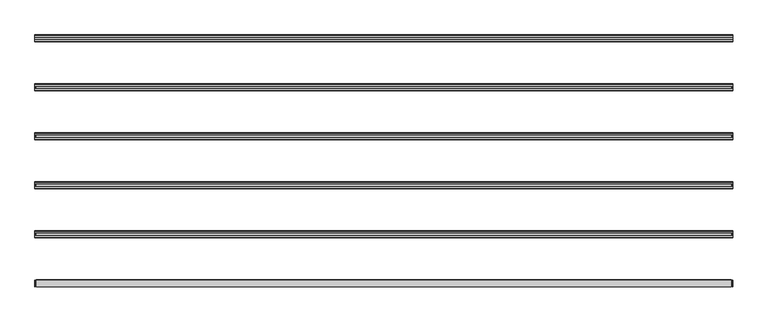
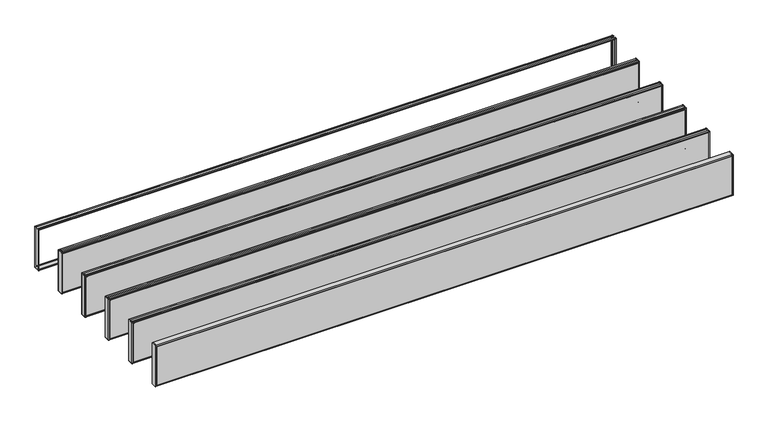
"""IFC4 building model written with IfcOpenShell, lengths in millimetres: proxy geometry, durlum_POLYLAM_KS : durlum_POLYLAM-KS/-S 40 RV-L6."""

from ifc_helpers import new_model, si_unit, frame, origin, place, context, project, spatial, polyline, circle_curve, outline, extrude, source, transform, mapped, element, save
from ifc_brep_helpers import plane_surface, cylinder_surface, advanced_brep


def generic_models_d5dff9a6(model_context):
    return source(origin(), model_context, "Body", "SolidModel", [
        advanced_brep(
        [(1995.0, 298.0, 1990.9), (1995.0, 288.0, 1990.9), (1995.0, 288.0, 1990.0604454), (1995.0, 299.0, 1990.0604454), (1995.0, 299.0, 1691.9), (1995.0, 261.0, 1691.9), (1995.0, 261.0, 1989.8155735), (1995.0, 272.0, 1989.8155735), (1995.0, 272.0, 1990.9), (1995.0, 262.0, 1990.9), (1995.0, 260.0, 1988.9), (1995.0, 260.0, 1692.9), (1995.0, 262.0, 1690.9), (1995.0, 298.0, 1690.9), (1995.0, 300.0, 1692.9), (1995.0, 300.0, 1988.9), (-1995.0, 298.0, 1990.9), (-1995.0, 300.0, 1988.9), (-1995.0, 300.0, 1692.9), (-1995.0, 298.0, 1690.9), (-1995.0, 262.0, 1690.9), (-1995.0, 260.0, 1692.9), (-1995.0, 260.0, 1988.9), (-1995.0, 262.0, 1990.9), (-1995.0, 272.0, 1990.9), (-1995.0, 272.0, 1989.8155735), (-1995.0, 261.0, 1989.8155735), (-1995.0, 261.0, 1691.9), (-1995.0, 299.0, 1691.9), (-1995.0, 299.0, 1990.0604454), (-1995.0, 288.0, 1990.0604454), (-1995.0, 288.0, 1990.9), (-1986.5, 299.0, 1982.4), (1986.5, 299.0, 1982.4), (1986.5, 299.0, 1699.4), (-1986.5, 299.0, 1699.4), (1986.5, 261.0, 1982.4), (-1986.5, 261.0, 1982.4), (-1986.5, 261.0, 1699.4), (1986.5, 261.0, 1699.4), (-1986.5, 260.0, 1982.4), (1986.5, 260.0, 1982.4), (1986.5, 260.0, 1699.4), (-1986.5, 260.0, 1699.4), (1986.5, 300.0, 1982.4), (-1986.5, 300.0, 1982.4), (-1986.5, 300.0, 1699.4), (1986.5, 300.0, 1699.4)],
        [
            (0, 1),
            (1, 2),
            (2, 3),
            (3, 4),
            (4, 5),
            (5, 6),
            (6, 7),
            (7, 8),
            (8, 9),
            (9, 10, circle_curve(frame((1995.0, 262.0, 1988.9), z_axis=(1.0, 0.0, 0.0), x_axis=(0.0, 1.0, 0.0)), 2.0)),
            (10, 11),
            (11, 12, circle_curve(frame((1995.0, 262.0, 1692.9), z_axis=(1.0, 0.0, 0.0), x_axis=(0.0, 1.0, 0.0)), 2.0)),
            (12, 13),
            (13, 14, circle_curve(frame((1995.0, 298.0, 1692.9), z_axis=(1.0, 0.0, 0.0), x_axis=(0.0, 1.0, 0.0)), 2.0)),
            (14, 15),
            (15, 0, circle_curve(frame((1995.0, 298.0, 1988.9), z_axis=(1.0, 0.0, 0.0), x_axis=(0.0, 1.0, 0.0)), 2.0)),
            (16, 17, circle_curve(frame((-1995.0, 298.0, 1988.9), z_axis=(-1.0, 0.0, 0.0), x_axis=(0.0, 1.0, 0.0)), 2.0)),
            (17, 18),
            (18, 19, circle_curve(frame((-1995.0, 298.0, 1692.9), z_axis=(-1.0, 0.0, 0.0), x_axis=(0.0, 1.0, 0.0)), 2.0)),
            (19, 20),
            (20, 21, circle_curve(frame((-1995.0, 262.0, 1692.9), z_axis=(-1.0, 0.0, 0.0), x_axis=(0.0, 1.0, 0.0)), 2.0)),
            (21, 22),
            (22, 23, circle_curve(frame((-1995.0, 262.0, 1988.9), z_axis=(-1.0, 0.0, 0.0), x_axis=(0.0, 1.0, 0.0)), 2.0)),
            (23, 24),
            (24, 25),
            (25, 26),
            (26, 27),
            (27, 28),
            (28, 29),
            (29, 30),
            (30, 31),
            (31, 16),
            (0, 16),
            (31, 1),
            (30, 2),
            (29, 3),
            (28, 4),
            (32, 33),
            (33, 34),
            (34, 35),
            (35, 32),
            (27, 5),
            (26, 6),
            (36, 37),
            (37, 38),
            (38, 39),
            (39, 36),
            (25, 7),
            (24, 8),
            (23, 9),
            (10, 22),
            (21, 11),
            (40, 41),
            (41, 42),
            (42, 43),
            (43, 40),
            (12, 20),
            (19, 13),
            (14, 18),
            (17, 15),
            (44, 45),
            (45, 46),
            (46, 47),
            (47, 44),
            (44, 33),
            (32, 45),
            (36, 41),
            (40, 37),
            (35, 46),
            (43, 38),
            (34, 47),
            (42, 39),
        ],
        [
            plane_surface(frame((1995.0, 288.0, 1990.9), z_axis=(1.0, 0.0, 0.0), x_axis=(0.0, -1.0, 0.0))),
            plane_surface(frame((-1995.0, 288.0, 1990.9), z_axis=(-1.0, 0.0, 0.0), x_axis=(0.0, 1.0, 0.0))),
            plane_surface(frame((1995.0, 298.0, 1990.9), z_axis=(0.0, 0.0, 1.0), x_axis=(-1.0, 0.0, 0.0))),
            plane_surface(frame((1995.0, 288.0, 1990.9), z_axis=(0.0, -1.0, 0.0), x_axis=(-1.0, 0.0, 0.0))),
            plane_surface(frame((1995.0, 288.0, 1990.0604454), z_axis=(0.0, 0.0, -1.0), x_axis=(-1.0, 0.0, 0.0))),
            plane_surface(frame((1995.0, 299.0, 1990.0604454), z_axis=(0.0, -1.0, 0.0), x_axis=(-1.0, 0.0, 0.0))),
            plane_surface(frame((1995.0, 299.0, 1691.9), z_axis=(0.0, 0.0, 1.0), x_axis=(-1.0, 0.0, 0.0))),
            plane_surface(frame((1995.0, 261.0, 1691.9), z_axis=(0.0, 1.0, 0.0), x_axis=(-1.0, 0.0, 0.0))),
            plane_surface(frame((1995.0, 261.0, 1989.8155735), z_axis=(0.0, 0.0, -1.0), x_axis=(-1.0, 0.0, 0.0))),
            plane_surface(frame((1995.0, 272.0, 1989.8155735), z_axis=(0.0, 1.0, 0.0), x_axis=(-1.0, 0.0, 0.0))),
            plane_surface(frame((1995.0, 272.0, 1990.9), z_axis=(0.0, 0.0, 1.0), x_axis=(-1.0, 0.0, 0.0))),
            plane_surface(frame((1995.0, 260.0, 1988.9), z_axis=(0.0, -1.0, 0.0), x_axis=(-1.0, 0.0, 0.0))),
            plane_surface(frame((1995.0, 262.0, 1690.9), z_axis=(0.0, 0.0, -1.0), x_axis=(-1.0, 0.0, 0.0))),
            plane_surface(frame((1995.0, 300.0, 1692.9), z_axis=(0.0, 1.0, 0.0), x_axis=(-1.0, 0.0, 0.0))),
            cylinder_surface(frame((-1995.0, 262.0, 1988.9), z_axis=(1.0, 0.0, 0.0), x_axis=(0.0, 1.0, 0.0)), 2.0),
            cylinder_surface(frame((-1995.0, 262.0, 1692.9), z_axis=(1.0, 0.0, 0.0), x_axis=(0.0, 1.0, 0.0)), 2.0),
            cylinder_surface(frame((-1995.0, 298.0, 1692.9), z_axis=(1.0, 0.0, 0.0), x_axis=(0.0, 1.0, 0.0)), 2.0),
            cylinder_surface(frame((-1995.0, 298.0, 1988.9), z_axis=(1.0, 0.0, 0.0), x_axis=(0.0, 1.0, 0.0)), 2.0),
            plane_surface(frame((1986.5, 260.0, 1982.4), z_axis=(0.0, 0.0, -1.0), x_axis=(0.0, 1.0, 0.0))),
            plane_surface(frame((-1986.5, 260.0, 1982.4), z_axis=(1.0, 0.0, 0.0), x_axis=(0.0, 1.0, 0.0))),
            plane_surface(frame((-1986.5, 260.0, 1699.4), z_axis=(0.0, 0.0, 1.0), x_axis=(0.0, 1.0, 0.0))),
            plane_surface(frame((1986.5, 260.0, 1699.4), z_axis=(-1.0, 0.0, 0.0), x_axis=(0.0, 1.0, 0.0))),
        ],
        [
            (0, [[1, 2, 3, 4, 5, 6, 7, 8, 9, 10, 11, 12, 13, 14, 15, 16]]),
            (1, [[17, 18, 19, 20, 21, 22, 23, 24, 25, 26, 27, 28, 29, 30, 31, 32]]),
            (2, [[-1, 33, -32, 34]]),
            (3, [[-2, -34, -31, 35]]),
            (4, [[-3, -35, -30, 36]]),
            (5, [[-4, -36, -29, 37], [38, 39, 40, 41]]),
            (6, [[-5, -37, -28, 42]]),
            (7, [[-6, -42, -27, 43], [44, 45, 46, 47]]),
            (8, [[-7, -43, -26, 48]]),
            (9, [[-8, -48, -25, 49]]),
            (10, [[-9, -49, -24, 50]]),
            (11, [[-11, 51, -22, 52], [53, 54, 55, 56]]),
            (12, [[-13, 57, -20, 58]]),
            (13, [[-15, 59, -18, 60], [61, 62, 63, 64]]),
            (14, [[-10, -50, -23, -51]]),
            (15, [[-12, -52, -21, -57]]),
            (16, [[-14, -58, -19, -59]]),
            (17, [[-16, -60, -17, -33]]),
            (18, [[65, -38, 66, -61]]),
            (18, [[67, -53, 68, -44]]),
            (19, [[-66, -41, 69, -62]]),
            (19, [[-68, -56, 70, -45]]),
            (20, [[-69, -40, 71, -63]]),
            (20, [[-70, -55, 72, -46]]),
            (21, [[-65, -64, -71, -39]]),
            (21, [[-67, -47, -72, -54]]),
        ],
    ),
        extrude(outline(polyline([(1993.0, 19.0), (1995.0, 19.0), (1995.0, -19.0), (1993.0, -19.0), (1993.0, 19.0)])), frame((0.0, 0.0, 1691.9), z_axis=(0.0, 0.0, 1.0), x_axis=(1.0, 0.0, 0.0)), (0.0, 0.0, 1.0), 298.1604454),
        extrude(outline(polyline([(-1995.0, 19.0), (-1993.0, 19.0), (-1993.0, -19.0), (-1995.0, -19.0), (-1995.0, 19.0)])), frame((0.0, 0.0, 1691.9), z_axis=(0.0, 0.0, 1.0), x_axis=(1.0, 0.0, 0.0)), (0.0, 0.0, 1.0), 298.1604454),
        extrude(outline(polyline([(1986.5, 19.0), (1986.5, -19.0), (-1986.5, -19.0), (-1986.5, 19.0), (1986.5, 19.0)])), frame((0.0, 0.0, 1691.9), z_axis=(0.0, 0.0, 1.0), x_axis=(1.0, 0.0, 0.0)), (0.0, 0.0, 1.0), 298.0),
        extrude(outline(polyline([(1986.5, 19.0), (-1986.5, 19.0), (-1986.5, 20.0), (1986.5, 20.0), (1986.5, 19.0)])), frame((0.0, 0.0, 1699.4), z_axis=(0.0, 0.0, 1.0), x_axis=(1.0, 0.0, 0.0)), (0.0, 0.0, 1.0), 283.0),
        extrude(outline(polyline([(1986.5, -20.0), (-1986.5, -20.0), (-1986.5, -19.0), (1986.5, -19.0), (1986.5, -20.0)])), frame((0.0, 0.0, 1699.4), z_axis=(0.0, 0.0, 1.0), x_axis=(1.0, 0.0, 0.0)), (0.0, 0.0, 1.0), 283.0),
        advanced_brep(
        [(1995.0, 18.0, 1990.9), (1995.0, 8.0, 1990.9), (1995.0, 8.0, 1990.0604454), (1995.0, 19.0, 1990.0604454), (1995.0, 19.0, 1691.9), (1995.0, -19.0, 1691.9), (1995.0, -19.0, 1989.8155735), (1995.0, -8.0, 1989.8155735), (1995.0, -8.0, 1990.9), (1995.0, -18.0, 1990.9), (1995.0, -20.0, 1988.9), (1995.0, -20.0, 1692.9), (1995.0, -18.0, 1690.9), (1995.0, 18.0, 1690.9), (1995.0, 20.0, 1692.9), (1995.0, 20.0, 1988.9), (-1995.0, 18.0, 1990.9), (-1995.0, 20.0, 1988.9), (-1995.0, 20.0, 1692.9), (-1995.0, 18.0, 1690.9), (-1995.0, -18.0, 1690.9), (-1995.0, -20.0, 1692.9), (-1995.0, -20.0, 1988.9), (-1995.0, -18.0, 1990.9), (-1995.0, -8.0, 1990.9), (-1995.0, -8.0, 1989.8155735), (-1995.0, -19.0, 1989.8155735), (-1995.0, -19.0, 1691.9), (-1995.0, 19.0, 1691.9), (-1995.0, 19.0, 1990.0604454), (-1995.0, 8.0, 1990.0604454), (-1995.0, 8.0, 1990.9), (-1986.5, 19.0, 1982.4), (1986.5, 19.0, 1982.4), (1986.5, 19.0, 1699.4), (-1986.5, 19.0, 1699.4), (1986.5, -19.0, 1982.4), (-1986.5, -19.0, 1982.4), (-1986.5, -19.0, 1699.4), (1986.5, -19.0, 1699.4), (-1986.5, -20.0, 1982.4), (1986.5, -20.0, 1982.4), (1986.5, -20.0, 1699.4), (-1986.5, -20.0, 1699.4), (1986.5, 20.0, 1982.4), (-1986.5, 20.0, 1982.4), (-1986.5, 20.0, 1699.4), (1986.5, 20.0, 1699.4)],
        [
            (0, 1),
            (1, 2),
            (2, 3),
            (3, 4),
            (4, 5),
            (5, 6),
            (6, 7),
            (7, 8),
            (8, 9),
            (9, 10, circle_curve(frame((1995.0, -18.0, 1988.9), z_axis=(1.0, 0.0, 0.0), x_axis=(0.0, 1.0, 0.0)), 2.0)),
            (10, 11),
            (11, 12, circle_curve(frame((1995.0, -18.0, 1692.9), z_axis=(1.0, 0.0, 0.0), x_axis=(0.0, 1.0, 0.0)), 2.0)),
            (12, 13),
            (13, 14, circle_curve(frame((1995.0, 18.0, 1692.9), z_axis=(1.0, 0.0, 0.0), x_axis=(0.0, 1.0, 0.0)), 2.0)),
            (14, 15),
            (15, 0, circle_curve(frame((1995.0, 18.0, 1988.9), z_axis=(1.0, 0.0, 0.0), x_axis=(0.0, 1.0, 0.0)), 2.0)),
            (16, 17, circle_curve(frame((-1995.0, 18.0, 1988.9), z_axis=(-1.0, 0.0, 0.0), x_axis=(0.0, 1.0, 0.0)), 2.0)),
            (17, 18),
            (18, 19, circle_curve(frame((-1995.0, 18.0, 1692.9), z_axis=(-1.0, 0.0, 0.0), x_axis=(0.0, 1.0, 0.0)), 2.0)),
            (19, 20),
            (20, 21, circle_curve(frame((-1995.0, -18.0, 1692.9), z_axis=(-1.0, 0.0, 0.0), x_axis=(0.0, 1.0, 0.0)), 2.0)),
            (21, 22),
            (22, 23, circle_curve(frame((-1995.0, -18.0, 1988.9), z_axis=(-1.0, 0.0, 0.0), x_axis=(0.0, 1.0, 0.0)), 2.0)),
            (23, 24),
            (24, 25),
            (25, 26),
            (26, 27),
            (27, 28),
            (28, 29),
            (29, 30),
            (30, 31),
            (31, 16),
            (0, 16),
            (31, 1),
            (30, 2),
            (29, 3),
            (28, 4),
            (32, 33),
            (33, 34),
            (34, 35),
            (35, 32),
            (27, 5),
            (26, 6),
            (36, 37),
            (37, 38),
            (38, 39),
            (39, 36),
            (25, 7),
            (24, 8),
            (23, 9),
            (10, 22),
            (21, 11),
            (40, 41),
            (41, 42),
            (42, 43),
            (43, 40),
            (12, 20),
            (19, 13),
            (14, 18),
            (17, 15),
            (44, 45),
            (45, 46),
            (46, 47),
            (47, 44),
            (44, 33),
            (32, 45),
            (36, 41),
            (40, 37),
            (35, 46),
            (43, 38),
            (34, 47),
            (42, 39),
        ],
        [
            plane_surface(frame((1995.0, 8.0, 1990.9), z_axis=(1.0, 0.0, 0.0), x_axis=(0.0, -1.0, 0.0))),
            plane_surface(frame((-1995.0, 8.0, 1990.9), z_axis=(-1.0, 0.0, 0.0), x_axis=(0.0, 1.0, 0.0))),
            plane_surface(frame((1995.0, 18.0, 1990.9), z_axis=(0.0, 0.0, 1.0), x_axis=(-1.0, 0.0, 0.0))),
            plane_surface(frame((1995.0, 8.0, 1990.9), z_axis=(0.0, -1.0, 0.0), x_axis=(-1.0, 0.0, 0.0))),
            plane_surface(frame((1995.0, 8.0, 1990.0604454), z_axis=(0.0, 0.0, -1.0), x_axis=(-1.0, 0.0, 0.0))),
            plane_surface(frame((1995.0, 19.0, 1990.0604454), z_axis=(0.0, -1.0, 0.0), x_axis=(-1.0, 0.0, 0.0))),
            plane_surface(frame((1995.0, 19.0, 1691.9), z_axis=(0.0, 0.0, 1.0), x_axis=(-1.0, 0.0, 0.0))),
            plane_surface(frame((1995.0, -19.0, 1691.9), z_axis=(0.0, 1.0, 0.0), x_axis=(-1.0, 0.0, 0.0))),
            plane_surface(frame((1995.0, -19.0, 1989.8155735), z_axis=(0.0, 0.0, -1.0), x_axis=(-1.0, 0.0, 0.0))),
            plane_surface(frame((1995.0, -8.0, 1989.8155735), z_axis=(0.0, 1.0, 0.0), x_axis=(-1.0, 0.0, 0.0))),
            plane_surface(frame((1995.0, -8.0, 1990.9), z_axis=(0.0, 0.0, 1.0), x_axis=(-1.0, 0.0, 0.0))),
            plane_surface(frame((1995.0, -20.0, 1988.9), z_axis=(0.0, -1.0, 0.0), x_axis=(-1.0, 0.0, 0.0))),
            plane_surface(frame((1995.0, -18.0, 1690.9), z_axis=(0.0, 0.0, -1.0), x_axis=(-1.0, 0.0, 0.0))),
            plane_surface(frame((1995.0, 20.0, 1692.9), z_axis=(0.0, 1.0, 0.0), x_axis=(-1.0, 0.0, 0.0))),
            cylinder_surface(frame((-1995.0, -18.0, 1988.9), z_axis=(1.0, 0.0, 0.0), x_axis=(0.0, 1.0, 0.0)), 2.0),
            cylinder_surface(frame((-1995.0, -18.0, 1692.9), z_axis=(1.0, 0.0, 0.0), x_axis=(0.0, 1.0, 0.0)), 2.0),
            cylinder_surface(frame((-1995.0, 18.0, 1692.9), z_axis=(1.0, 0.0, 0.0), x_axis=(0.0, 1.0, 0.0)), 2.0),
            cylinder_surface(frame((-1995.0, 18.0, 1988.9), z_axis=(1.0, 0.0, 0.0), x_axis=(0.0, 1.0, 0.0)), 2.0),
            plane_surface(frame((1986.5, -20.0, 1982.4), z_axis=(0.0, 0.0, -1.0), x_axis=(0.0, 1.0, 0.0))),
            plane_surface(frame((-1986.5, -20.0, 1982.4), z_axis=(1.0, 0.0, 0.0), x_axis=(0.0, 1.0, 0.0))),
            plane_surface(frame((-1986.5, -20.0, 1699.4), z_axis=(0.0, 0.0, 1.0), x_axis=(0.0, 1.0, 0.0))),
            plane_surface(frame((1986.5, -20.0, 1699.4), z_axis=(-1.0, 0.0, 0.0), x_axis=(0.0, 1.0, 0.0))),
        ],
        [
            (0, [[1, 2, 3, 4, 5, 6, 7, 8, 9, 10, 11, 12, 13, 14, 15, 16]]),
            (1, [[17, 18, 19, 20, 21, 22, 23, 24, 25, 26, 27, 28, 29, 30, 31, 32]]),
            (2, [[-1, 33, -32, 34]]),
            (3, [[-2, -34, -31, 35]]),
            (4, [[-3, -35, -30, 36]]),
            (5, [[-4, -36, -29, 37], [38, 39, 40, 41]]),
            (6, [[-5, -37, -28, 42]]),
            (7, [[-6, -42, -27, 43], [44, 45, 46, 47]]),
            (8, [[-7, -43, -26, 48]]),
            (9, [[-8, -48, -25, 49]]),
            (10, [[-9, -49, -24, 50]]),
            (11, [[-11, 51, -22, 52], [53, 54, 55, 56]]),
            (12, [[-13, 57, -20, 58]]),
            (13, [[-15, 59, -18, 60], [61, 62, 63, 64]]),
            (14, [[-10, -50, -23, -51]]),
            (15, [[-12, -52, -21, -57]]),
            (16, [[-14, -58, -19, -59]]),
            (17, [[-16, -60, -17, -33]]),
            (18, [[65, -38, 66, -61]]),
            (18, [[67, -53, 68, -44]]),
            (19, [[-66, -41, 69, -62]]),
            (19, [[-68, -56, 70, -45]]),
            (20, [[-69, -40, 71, -63]]),
            (20, [[-70, -55, 72, -46]]),
            (21, [[-65, -64, -71, -39]]),
            (21, [[-67, -47, -72, -54]]),
        ],
    ),
        extrude(outline(polyline([(1993.0, -261.0), (1995.0, -261.0), (1995.0, -299.0), (1993.0, -299.0), (1993.0, -261.0)])), frame((0.0, 0.0, 1691.9), z_axis=(0.0, 0.0, 1.0), x_axis=(1.0, 0.0, 0.0)), (0.0, 0.0, 1.0), 298.1604454),
        extrude(outline(polyline([(-1995.0, -261.0), (-1993.0, -261.0), (-1993.0, -299.0), (-1995.0, -299.0), (-1995.0, -261.0)])), frame((0.0, 0.0, 1691.9), z_axis=(0.0, 0.0, 1.0), x_axis=(1.0, 0.0, 0.0)), (0.0, 0.0, 1.0), 298.1604454),
        extrude(outline(polyline([(1986.5, -261.0), (1986.5, -299.0), (-1986.5, -299.0), (-1986.5, -261.0), (1986.5, -261.0)])), frame((0.0, 0.0, 1691.9), z_axis=(0.0, 0.0, 1.0), x_axis=(1.0, 0.0, 0.0)), (0.0, 0.0, 1.0), 298.0),
        extrude(outline(polyline([(1986.5, -261.0), (-1986.5, -261.0), (-1986.5, -260.0), (1986.5, -260.0), (1986.5, -261.0)])), frame((0.0, 0.0, 1699.4), z_axis=(0.0, 0.0, 1.0), x_axis=(1.0, 0.0, 0.0)), (0.0, 0.0, 1.0), 283.0),
        extrude(outline(polyline([(1986.5, -300.0), (-1986.5, -300.0), (-1986.5, -299.0), (1986.5, -299.0), (1986.5, -300.0)])), frame((0.0, 0.0, 1699.4), z_axis=(0.0, 0.0, 1.0), x_axis=(1.0, 0.0, 0.0)), (0.0, 0.0, 1.0), 283.0),
        advanced_brep(
        [(1995.0, -262.0, 1990.9), (1995.0, -272.0, 1990.9), (1995.0, -272.0, 1990.0604454), (1995.0, -261.0, 1990.0604454), (1995.0, -261.0, 1691.9), (1995.0, -299.0, 1691.9), (1995.0, -299.0, 1989.8155735), (1995.0, -288.0, 1989.8155735), (1995.0, -288.0, 1990.9), (1995.0, -298.0, 1990.9), (1995.0, -300.0, 1988.9), (1995.0, -300.0, 1692.9), (1995.0, -298.0, 1690.9), (1995.0, -262.0, 1690.9), (1995.0, -260.0, 1692.9), (1995.0, -260.0, 1988.9), (-1995.0, -262.0, 1990.9), (-1995.0, -260.0, 1988.9), (-1995.0, -260.0, 1692.9), (-1995.0, -262.0, 1690.9), (-1995.0, -298.0, 1690.9), (-1995.0, -300.0, 1692.9), (-1995.0, -300.0, 1988.9), (-1995.0, -298.0, 1990.9), (-1995.0, -288.0, 1990.9), (-1995.0, -288.0, 1989.8155735), (-1995.0, -299.0, 1989.8155735), (-1995.0, -299.0, 1691.9), (-1995.0, -261.0, 1691.9), (-1995.0, -261.0, 1990.0604454), (-1995.0, -272.0, 1990.0604454), (-1995.0, -272.0, 1990.9), (-1986.5, -261.0, 1982.4), (1986.5, -261.0, 1982.4), (1986.5, -261.0, 1699.4), (-1986.5, -261.0, 1699.4), (1986.5, -299.0, 1982.4), (-1986.5, -299.0, 1982.4), (-1986.5, -299.0, 1699.4), (1986.5, -299.0, 1699.4), (-1986.5, -300.0, 1982.4), (1986.5, -300.0, 1982.4), (1986.5, -300.0, 1699.4), (-1986.5, -300.0, 1699.4), (1986.5, -260.0, 1982.4), (-1986.5, -260.0, 1982.4), (-1986.5, -260.0, 1699.4), (1986.5, -260.0, 1699.4)],
        [
            (0, 1),
            (1, 2),
            (2, 3),
            (3, 4),
            (4, 5),
            (5, 6),
            (6, 7),
            (7, 8),
            (8, 9),
            (9, 10, circle_curve(frame((1995.0, -298.0, 1988.9), z_axis=(1.0, 0.0, 0.0), x_axis=(0.0, 1.0, 0.0)), 2.0)),
            (10, 11),
            (11, 12, circle_curve(frame((1995.0, -298.0, 1692.9), z_axis=(1.0, 0.0, 0.0), x_axis=(0.0, 1.0, 0.0)), 2.0)),
            (12, 13),
            (13, 14, circle_curve(frame((1995.0, -262.0, 1692.9), z_axis=(1.0, 0.0, 0.0), x_axis=(0.0, 1.0, 0.0)), 2.0)),
            (14, 15),
            (15, 0, circle_curve(frame((1995.0, -262.0, 1988.9), z_axis=(1.0, 0.0, 0.0), x_axis=(0.0, 1.0, 0.0)), 2.0)),
            (16, 17, circle_curve(frame((-1995.0, -262.0, 1988.9), z_axis=(-1.0, 0.0, 0.0), x_axis=(0.0, 1.0, 0.0)), 2.0)),
            (17, 18),
            (18, 19, circle_curve(frame((-1995.0, -262.0, 1692.9), z_axis=(-1.0, 0.0, 0.0), x_axis=(0.0, 1.0, 0.0)), 2.0)),
            (19, 20),
            (20, 21, circle_curve(frame((-1995.0, -298.0, 1692.9), z_axis=(-1.0, 0.0, 0.0), x_axis=(0.0, 1.0, 0.0)), 2.0)),
            (21, 22),
            (22, 23, circle_curve(frame((-1995.0, -298.0, 1988.9), z_axis=(-1.0, 0.0, 0.0), x_axis=(0.0, 1.0, 0.0)), 2.0)),
            (23, 24),
            (24, 25),
            (25, 26),
            (26, 27),
            (27, 28),
            (28, 29),
            (29, 30),
            (30, 31),
            (31, 16),
            (0, 16),
            (31, 1),
            (30, 2),
            (29, 3),
            (28, 4),
            (32, 33),
            (33, 34),
            (34, 35),
            (35, 32),
            (27, 5),
            (26, 6),
            (36, 37),
            (37, 38),
            (38, 39),
            (39, 36),
            (25, 7),
            (24, 8),
            (23, 9),
            (10, 22),
            (21, 11),
            (40, 41),
            (41, 42),
            (42, 43),
            (43, 40),
            (12, 20),
            (19, 13),
            (14, 18),
            (17, 15),
            (44, 45),
            (45, 46),
            (46, 47),
            (47, 44),
            (44, 33),
            (32, 45),
            (36, 41),
            (40, 37),
            (35, 46),
            (43, 38),
            (34, 47),
            (42, 39),
        ],
        [
            plane_surface(frame((1995.0, -272.0, 1990.9), z_axis=(1.0, 0.0, 0.0), x_axis=(0.0, -1.0, 0.0))),
            plane_surface(frame((-1995.0, -272.0, 1990.9), z_axis=(-1.0, 0.0, 0.0), x_axis=(0.0, 1.0, 0.0))),
            plane_surface(frame((1995.0, -262.0, 1990.9), z_axis=(0.0, 0.0, 1.0), x_axis=(-1.0, 0.0, 0.0))),
            plane_surface(frame((1995.0, -272.0, 1990.9), z_axis=(0.0, -1.0, 0.0), x_axis=(-1.0, 0.0, 0.0))),
            plane_surface(frame((1995.0, -272.0, 1990.0604454), z_axis=(0.0, 0.0, -1.0), x_axis=(-1.0, 0.0, 0.0))),
            plane_surface(frame((1995.0, -261.0, 1990.0604454), z_axis=(0.0, -1.0, 0.0), x_axis=(-1.0, 0.0, 0.0))),
            plane_surface(frame((1995.0, -261.0, 1691.9), z_axis=(0.0, 0.0, 1.0), x_axis=(-1.0, 0.0, 0.0))),
            plane_surface(frame((1995.0, -299.0, 1691.9), z_axis=(0.0, 1.0, 0.0), x_axis=(-1.0, 0.0, 0.0))),
            plane_surface(frame((1995.0, -299.0, 1989.8155735), z_axis=(0.0, 0.0, -1.0), x_axis=(-1.0, 0.0, 0.0))),
            plane_surface(frame((1995.0, -288.0, 1989.8155735), z_axis=(0.0, 1.0, 0.0), x_axis=(-1.0, 0.0, 0.0))),
            plane_surface(frame((1995.0, -288.0, 1990.9), z_axis=(0.0, 0.0, 1.0), x_axis=(-1.0, 0.0, 0.0))),
            plane_surface(frame((1995.0, -300.0, 1988.9), z_axis=(0.0, -1.0, 0.0), x_axis=(-1.0, 0.0, 0.0))),
            plane_surface(frame((1995.0, -298.0, 1690.9), z_axis=(0.0, 0.0, -1.0), x_axis=(-1.0, 0.0, 0.0))),
            plane_surface(frame((1995.0, -260.0, 1692.9), z_axis=(0.0, 1.0, 0.0), x_axis=(-1.0, 0.0, 0.0))),
            cylinder_surface(frame((-1995.0, -298.0, 1988.9), z_axis=(1.0, 0.0, 0.0), x_axis=(0.0, 1.0, 0.0)), 2.0),
            cylinder_surface(frame((-1995.0, -298.0, 1692.9), z_axis=(1.0, 0.0, 0.0), x_axis=(0.0, 1.0, 0.0)), 2.0),
            cylinder_surface(frame((-1995.0, -262.0, 1692.9), z_axis=(1.0, 0.0, 0.0), x_axis=(0.0, 1.0, 0.0)), 2.0),
            cylinder_surface(frame((-1995.0, -262.0, 1988.9), z_axis=(1.0, 0.0, 0.0), x_axis=(0.0, 1.0, 0.0)), 2.0),
            plane_surface(frame((1986.5, -300.0, 1982.4), z_axis=(0.0, 0.0, -1.0), x_axis=(0.0, 1.0, 0.0))),
            plane_surface(frame((-1986.5, -300.0, 1982.4), z_axis=(1.0, 0.0, 0.0), x_axis=(0.0, 1.0, 0.0))),
            plane_surface(frame((-1986.5, -300.0, 1699.4), z_axis=(0.0, 0.0, 1.0), x_axis=(0.0, 1.0, 0.0))),
            plane_surface(frame((1986.5, -300.0, 1699.4), z_axis=(-1.0, 0.0, 0.0), x_axis=(0.0, 1.0, 0.0))),
        ],
        [
            (0, [[1, 2, 3, 4, 5, 6, 7, 8, 9, 10, 11, 12, 13, 14, 15, 16]]),
            (1, [[17, 18, 19, 20, 21, 22, 23, 24, 25, 26, 27, 28, 29, 30, 31, 32]]),
            (2, [[-1, 33, -32, 34]]),
            (3, [[-2, -34, -31, 35]]),
            (4, [[-3, -35, -30, 36]]),
            (5, [[-4, -36, -29, 37], [38, 39, 40, 41]]),
            (6, [[-5, -37, -28, 42]]),
            (7, [[-6, -42, -27, 43], [44, 45, 46, 47]]),
            (8, [[-7, -43, -26, 48]]),
            (9, [[-8, -48, -25, 49]]),
            (10, [[-9, -49, -24, 50]]),
            (11, [[-11, 51, -22, 52], [53, 54, 55, 56]]),
            (12, [[-13, 57, -20, 58]]),
            (13, [[-15, 59, -18, 60], [61, 62, 63, 64]]),
            (14, [[-10, -50, -23, -51]]),
            (15, [[-12, -52, -21, -57]]),
            (16, [[-14, -58, -19, -59]]),
            (17, [[-16, -60, -17, -33]]),
            (18, [[65, -38, 66, -61]]),
            (18, [[67, -53, 68, -44]]),
            (19, [[-66, -41, 69, -62]]),
            (19, [[-68, -56, 70, -45]]),
            (20, [[-69, -40, 71, -63]]),
            (20, [[-70, -55, 72, -46]]),
            (21, [[-65, -64, -71, -39]]),
            (21, [[-67, -47, -72, -54]]),
        ],
    ),
        extrude(outline(polyline([(1993.0, -541.0), (1995.0, -541.0), (1995.0, -579.0), (1993.0, -579.0), (1993.0, -541.0)])), frame((0.0, 0.0, 1691.9), z_axis=(0.0, 0.0, 1.0), x_axis=(1.0, 0.0, 0.0)), (0.0, 0.0, 1.0), 298.1604454),
        extrude(outline(polyline([(-1995.0, -541.0), (-1993.0, -541.0), (-1993.0, -579.0), (-1995.0, -579.0), (-1995.0, -541.0)])), frame((0.0, 0.0, 1691.9), z_axis=(0.0, 0.0, 1.0), x_axis=(1.0, 0.0, 0.0)), (0.0, 0.0, 1.0), 298.1604454),
        extrude(outline(polyline([(1986.5, -541.0), (1986.5, -579.0), (-1986.5, -579.0), (-1986.5, -541.0), (1986.5, -541.0)])), frame((0.0, 0.0, 1691.9), z_axis=(0.0, 0.0, 1.0), x_axis=(1.0, 0.0, 0.0)), (0.0, 0.0, 1.0), 298.0),
        extrude(outline(polyline([(1986.5, -541.0), (-1986.5, -541.0), (-1986.5, -540.0), (1986.5, -540.0), (1986.5, -541.0)])), frame((0.0, 0.0, 1699.4), z_axis=(0.0, 0.0, 1.0), x_axis=(1.0, 0.0, 0.0)), (0.0, 0.0, 1.0), 283.0),
        extrude(outline(polyline([(1986.5, -580.0), (-1986.5, -580.0), (-1986.5, -579.0), (1986.5, -579.0), (1986.5, -580.0)])), frame((0.0, 0.0, 1699.4), z_axis=(0.0, 0.0, 1.0), x_axis=(1.0, 0.0, 0.0)), (0.0, 0.0, 1.0), 283.0),
        advanced_brep(
        [(1995.0, -542.0, 1990.9), (1995.0, -552.0, 1990.9), (1995.0, -552.0, 1990.0604454), (1995.0, -541.0, 1990.0604454), (1995.0, -541.0, 1691.9), (1995.0, -579.0, 1691.9), (1995.0, -579.0, 1989.8155735), (1995.0, -568.0, 1989.8155735), (1995.0, -568.0, 1990.9), (1995.0, -578.0, 1990.9), (1995.0, -580.0, 1988.9), (1995.0, -580.0, 1692.9), (1995.0, -578.0, 1690.9), (1995.0, -542.0, 1690.9), (1995.0, -540.0, 1692.9), (1995.0, -540.0, 1988.9), (-1995.0, -542.0, 1990.9), (-1995.0, -540.0, 1988.9), (-1995.0, -540.0, 1692.9), (-1995.0, -542.0, 1690.9), (-1995.0, -578.0, 1690.9), (-1995.0, -580.0, 1692.9), (-1995.0, -580.0, 1988.9), (-1995.0, -578.0, 1990.9), (-1995.0, -568.0, 1990.9), (-1995.0, -568.0, 1989.8155735), (-1995.0, -579.0, 1989.8155735), (-1995.0, -579.0, 1691.9), (-1995.0, -541.0, 1691.9), (-1995.0, -541.0, 1990.0604454), (-1995.0, -552.0, 1990.0604454), (-1995.0, -552.0, 1990.9), (-1986.5, -541.0, 1982.4), (1986.5, -541.0, 1982.4), (1986.5, -541.0, 1699.4), (-1986.5, -541.0, 1699.4), (1986.5, -579.0, 1982.4), (-1986.5, -579.0, 1982.4), (-1986.5, -579.0, 1699.4), (1986.5, -579.0, 1699.4), (-1986.5, -580.0, 1982.4), (1986.5, -580.0, 1982.4), (1986.5, -580.0, 1699.4), (-1986.5, -580.0, 1699.4), (1986.5, -540.0, 1982.4), (-1986.5, -540.0, 1982.4), (-1986.5, -540.0, 1699.4), (1986.5, -540.0, 1699.4)],
        [
            (0, 1),
            (1, 2),
            (2, 3),
            (3, 4),
            (4, 5),
            (5, 6),
            (6, 7),
            (7, 8),
            (8, 9),
            (9, 10, circle_curve(frame((1995.0, -578.0, 1988.9), z_axis=(1.0, 0.0, 0.0), x_axis=(0.0, 1.0, 0.0)), 2.0)),
            (10, 11),
            (11, 12, circle_curve(frame((1995.0, -578.0, 1692.9), z_axis=(1.0, 0.0, 0.0), x_axis=(0.0, 1.0, 0.0)), 2.0)),
            (12, 13),
            (13, 14, circle_curve(frame((1995.0, -542.0, 1692.9), z_axis=(1.0, 0.0, 0.0), x_axis=(0.0, 1.0, 0.0)), 2.0)),
            (14, 15),
            (15, 0, circle_curve(frame((1995.0, -542.0, 1988.9), z_axis=(1.0, 0.0, 0.0), x_axis=(0.0, 1.0, 0.0)), 2.0)),
            (16, 17, circle_curve(frame((-1995.0, -542.0, 1988.9), z_axis=(-1.0, 0.0, 0.0), x_axis=(0.0, 1.0, 0.0)), 2.0)),
            (17, 18),
            (18, 19, circle_curve(frame((-1995.0, -542.0, 1692.9), z_axis=(-1.0, 0.0, 0.0), x_axis=(0.0, 1.0, 0.0)), 2.0)),
            (19, 20),
            (20, 21, circle_curve(frame((-1995.0, -578.0, 1692.9), z_axis=(-1.0, 0.0, 0.0), x_axis=(0.0, 1.0, 0.0)), 2.0)),
            (21, 22),
            (22, 23, circle_curve(frame((-1995.0, -578.0, 1988.9), z_axis=(-1.0, 0.0, 0.0), x_axis=(0.0, 1.0, 0.0)), 2.0)),
            (23, 24),
            (24, 25),
            (25, 26),
            (26, 27),
            (27, 28),
            (28, 29),
            (29, 30),
            (30, 31),
            (31, 16),
            (0, 16),
            (31, 1),
            (30, 2),
            (29, 3),
            (28, 4),
            (32, 33),
            (33, 34),
            (34, 35),
            (35, 32),
            (27, 5),
            (26, 6),
            (36, 37),
            (37, 38),
            (38, 39),
            (39, 36),
            (25, 7),
            (24, 8),
            (23, 9),
            (10, 22),
            (21, 11),
            (40, 41),
            (41, 42),
            (42, 43),
            (43, 40),
            (12, 20),
            (19, 13),
            (14, 18),
            (17, 15),
            (44, 45),
            (45, 46),
            (46, 47),
            (47, 44),
            (44, 33),
            (32, 45),
            (36, 41),
            (40, 37),
            (35, 46),
            (43, 38),
            (34, 47),
            (42, 39),
        ],
        [
            plane_surface(frame((1995.0, -552.0, 1990.9), z_axis=(1.0, 0.0, 0.0), x_axis=(0.0, -1.0, 0.0))),
            plane_surface(frame((-1995.0, -552.0, 1990.9), z_axis=(-1.0, 0.0, 0.0), x_axis=(0.0, 1.0, 0.0))),
            plane_surface(frame((1995.0, -542.0, 1990.9), z_axis=(0.0, 0.0, 1.0), x_axis=(-1.0, 0.0, 0.0))),
            plane_surface(frame((1995.0, -552.0, 1990.9), z_axis=(0.0, -1.0, 0.0), x_axis=(-1.0, 0.0, 0.0))),
            plane_surface(frame((1995.0, -552.0, 1990.0604454), z_axis=(0.0, 0.0, -1.0), x_axis=(-1.0, 0.0, 0.0))),
            plane_surface(frame((1995.0, -541.0, 1990.0604454), z_axis=(0.0, -1.0, 0.0), x_axis=(-1.0, 0.0, 0.0))),
            plane_surface(frame((1995.0, -541.0, 1691.9), z_axis=(0.0, 0.0, 1.0), x_axis=(-1.0, 0.0, 0.0))),
            plane_surface(frame((1995.0, -579.0, 1691.9), z_axis=(0.0, 1.0, 0.0), x_axis=(-1.0, 0.0, 0.0))),
            plane_surface(frame((1995.0, -579.0, 1989.8155735), z_axis=(0.0, 0.0, -1.0), x_axis=(-1.0, 0.0, 0.0))),
            plane_surface(frame((1995.0, -568.0, 1989.8155735), z_axis=(0.0, 1.0, 0.0), x_axis=(-1.0, 0.0, 0.0))),
            plane_surface(frame((1995.0, -568.0, 1990.9), z_axis=(0.0, 0.0, 1.0), x_axis=(-1.0, 0.0, 0.0))),
            plane_surface(frame((1995.0, -580.0, 1988.9), z_axis=(0.0, -1.0, 0.0), x_axis=(-1.0, 0.0, 0.0))),
            plane_surface(frame((1995.0, -578.0, 1690.9), z_axis=(0.0, 0.0, -1.0), x_axis=(-1.0, 0.0, 0.0))),
            plane_surface(frame((1995.0, -540.0, 1692.9), z_axis=(0.0, 1.0, 0.0), x_axis=(-1.0, 0.0, 0.0))),
            cylinder_surface(frame((-1995.0, -578.0, 1988.9), z_axis=(1.0, 0.0, 0.0), x_axis=(0.0, 1.0, 0.0)), 2.0),
            cylinder_surface(frame((-1995.0, -578.0, 1692.9), z_axis=(1.0, 0.0, 0.0), x_axis=(0.0, 1.0, 0.0)), 2.0),
            cylinder_surface(frame((-1995.0, -542.0, 1692.9), z_axis=(1.0, 0.0, 0.0), x_axis=(0.0, 1.0, 0.0)), 2.0),
            cylinder_surface(frame((-1995.0, -542.0, 1988.9), z_axis=(1.0, 0.0, 0.0), x_axis=(0.0, 1.0, 0.0)), 2.0),
            plane_surface(frame((1986.5, -580.0, 1982.4), z_axis=(0.0, 0.0, -1.0), x_axis=(0.0, 1.0, 0.0))),
            plane_surface(frame((-1986.5, -580.0, 1982.4), z_axis=(1.0, 0.0, 0.0), x_axis=(0.0, 1.0, 0.0))),
            plane_surface(frame((-1986.5, -580.0, 1699.4), z_axis=(0.0, 0.0, 1.0), x_axis=(0.0, 1.0, 0.0))),
            plane_surface(frame((1986.5, -580.0, 1699.4), z_axis=(-1.0, 0.0, 0.0), x_axis=(0.0, 1.0, 0.0))),
        ],
        [
            (0, [[1, 2, 3, 4, 5, 6, 7, 8, 9, 10, 11, 12, 13, 14, 15, 16]]),
            (1, [[17, 18, 19, 20, 21, 22, 23, 24, 25, 26, 27, 28, 29, 30, 31, 32]]),
            (2, [[-1, 33, -32, 34]]),
            (3, [[-2, -34, -31, 35]]),
            (4, [[-3, -35, -30, 36]]),
            (5, [[-4, -36, -29, 37], [38, 39, 40, 41]]),
            (6, [[-5, -37, -28, 42]]),
            (7, [[-6, -42, -27, 43], [44, 45, 46, 47]]),
            (8, [[-7, -43, -26, 48]]),
            (9, [[-8, -48, -25, 49]]),
            (10, [[-9, -49, -24, 50]]),
            (11, [[-11, 51, -22, 52], [53, 54, 55, 56]]),
            (12, [[-13, 57, -20, 58]]),
            (13, [[-15, 59, -18, 60], [61, 62, 63, 64]]),
            (14, [[-10, -50, -23, -51]]),
            (15, [[-12, -52, -21, -57]]),
            (16, [[-14, -58, -19, -59]]),
            (17, [[-16, -60, -17, -33]]),
            (18, [[65, -38, 66, -61]]),
            (18, [[67, -53, 68, -44]]),
            (19, [[-66, -41, 69, -62]]),
            (19, [[-68, -56, 70, -45]]),
            (20, [[-69, -40, 71, -63]]),
            (20, [[-70, -55, 72, -46]]),
            (21, [[-65, -64, -71, -39]]),
            (21, [[-67, -47, -72, -54]]),
        ],
    ),
        extrude(outline(polyline([(1993.0, -821.0), (1995.0, -821.0), (1995.0, -859.0), (1993.0, -859.0), (1993.0, -821.0)])), frame((0.0, 0.0, 1691.9), z_axis=(0.0, 0.0, 1.0), x_axis=(1.0, 0.0, 0.0)), (0.0, 0.0, 1.0), 298.1604454),
        extrude(outline(polyline([(-1995.0, -821.0), (-1993.0, -821.0), (-1993.0, -859.0), (-1995.0, -859.0), (-1995.0, -821.0)])), frame((0.0, 0.0, 1691.9), z_axis=(0.0, 0.0, 1.0), x_axis=(1.0, 0.0, 0.0)), (0.0, 0.0, 1.0), 298.1604454),
        extrude(outline(polyline([(1986.5, -821.0), (1986.5, -859.0), (-1986.5, -859.0), (-1986.5, -821.0), (1986.5, -821.0)])), frame((0.0, 0.0, 1691.9), z_axis=(0.0, 0.0, 1.0), x_axis=(1.0, 0.0, 0.0)), (0.0, 0.0, 1.0), 298.0),
        extrude(outline(polyline([(1986.5, -821.0), (-1986.5, -821.0), (-1986.5, -820.0), (1986.5, -820.0), (1986.5, -821.0)])), frame((0.0, 0.0, 1699.4), z_axis=(0.0, 0.0, 1.0), x_axis=(1.0, 0.0, 0.0)), (0.0, 0.0, 1.0), 283.0),
        extrude(outline(polyline([(1986.5, -860.0), (-1986.5, -860.0), (-1986.5, -859.0), (1986.5, -859.0), (1986.5, -860.0)])), frame((0.0, 0.0, 1699.4), z_axis=(0.0, 0.0, 1.0), x_axis=(1.0, 0.0, 0.0)), (0.0, 0.0, 1.0), 283.0),
        advanced_brep(
        [(1995.0, -822.0, 1990.9), (1995.0, -832.0, 1990.9), (1995.0, -832.0, 1990.0604454), (1995.0, -821.0, 1990.0604454), (1995.0, -821.0, 1691.9), (1995.0, -859.0, 1691.9), (1995.0, -859.0, 1989.8155735), (1995.0, -848.0, 1989.8155735), (1995.0, -848.0, 1990.9), (1995.0, -858.0, 1990.9), (1995.0, -860.0, 1988.9), (1995.0, -860.0, 1692.9), (1995.0, -858.0, 1690.9), (1995.0, -822.0, 1690.9), (1995.0, -820.0, 1692.9), (1995.0, -820.0, 1988.9), (-1995.0, -822.0, 1990.9), (-1995.0, -820.0, 1988.9), (-1995.0, -820.0, 1692.9), (-1995.0, -822.0, 1690.9), (-1995.0, -858.0, 1690.9), (-1995.0, -860.0, 1692.9), (-1995.0, -860.0, 1988.9), (-1995.0, -858.0, 1990.9), (-1995.0, -848.0, 1990.9), (-1995.0, -848.0, 1989.8155735), (-1995.0, -859.0, 1989.8155735), (-1995.0, -859.0, 1691.9), (-1995.0, -821.0, 1691.9), (-1995.0, -821.0, 1990.0604454), (-1995.0, -832.0, 1990.0604454), (-1995.0, -832.0, 1990.9), (-1986.5, -821.0, 1982.4), (1986.5, -821.0, 1982.4), (1986.5, -821.0, 1699.4), (-1986.5, -821.0, 1699.4), (1986.5, -859.0, 1982.4), (-1986.5, -859.0, 1982.4), (-1986.5, -859.0, 1699.4), (1986.5, -859.0, 1699.4), (-1986.5, -860.0, 1982.4), (1986.5, -860.0, 1982.4), (1986.5, -860.0, 1699.4), (-1986.5, -860.0, 1699.4), (1986.5, -820.0, 1982.4), (-1986.5, -820.0, 1982.4), (-1986.5, -820.0, 1699.4), (1986.5, -820.0, 1699.4)],
        [
            (0, 1),
            (1, 2),
            (2, 3),
            (3, 4),
            (4, 5),
            (5, 6),
            (6, 7),
            (7, 8),
            (8, 9),
            (9, 10, circle_curve(frame((1995.0, -858.0, 1988.9), z_axis=(1.0, 0.0, 0.0), x_axis=(0.0, 1.0, 0.0)), 2.0)),
            (10, 11),
            (11, 12, circle_curve(frame((1995.0, -858.0, 1692.9), z_axis=(1.0, 0.0, 0.0), x_axis=(0.0, 1.0, 0.0)), 2.0)),
            (12, 13),
            (13, 14, circle_curve(frame((1995.0, -822.0, 1692.9), z_axis=(1.0, 0.0, 0.0), x_axis=(0.0, 1.0, 0.0)), 2.0)),
            (14, 15),
            (15, 0, circle_curve(frame((1995.0, -822.0, 1988.9), z_axis=(1.0, 0.0, 0.0), x_axis=(0.0, 1.0, 0.0)), 2.0)),
            (16, 17, circle_curve(frame((-1995.0, -822.0, 1988.9), z_axis=(-1.0, 0.0, 0.0), x_axis=(0.0, 1.0, 0.0)), 2.0)),
            (17, 18),
            (18, 19, circle_curve(frame((-1995.0, -822.0, 1692.9), z_axis=(-1.0, 0.0, 0.0), x_axis=(0.0, 1.0, 0.0)), 2.0)),
            (19, 20),
            (20, 21, circle_curve(frame((-1995.0, -858.0, 1692.9), z_axis=(-1.0, 0.0, 0.0), x_axis=(0.0, 1.0, 0.0)), 2.0)),
            (21, 22),
            (22, 23, circle_curve(frame((-1995.0, -858.0, 1988.9), z_axis=(-1.0, 0.0, 0.0), x_axis=(0.0, 1.0, 0.0)), 2.0)),
            (23, 24),
            (24, 25),
            (25, 26),
            (26, 27),
            (27, 28),
            (28, 29),
            (29, 30),
            (30, 31),
            (31, 16),
            (0, 16),
            (31, 1),
            (30, 2),
            (29, 3),
            (28, 4),
            (32, 33),
            (33, 34),
            (34, 35),
            (35, 32),
            (27, 5),
            (26, 6),
            (36, 37),
            (37, 38),
            (38, 39),
            (39, 36),
            (25, 7),
            (24, 8),
            (23, 9),
            (10, 22),
            (21, 11),
            (40, 41),
            (41, 42),
            (42, 43),
            (43, 40),
            (12, 20),
            (19, 13),
            (14, 18),
            (17, 15),
            (44, 45),
            (45, 46),
            (46, 47),
            (47, 44),
            (44, 33),
            (32, 45),
            (36, 41),
            (40, 37),
            (35, 46),
            (43, 38),
            (34, 47),
            (42, 39),
        ],
        [
            plane_surface(frame((1995.0, -832.0, 1990.9), z_axis=(1.0, 0.0, 0.0), x_axis=(0.0, -1.0, 0.0))),
            plane_surface(frame((-1995.0, -832.0, 1990.9), z_axis=(-1.0, 0.0, 0.0), x_axis=(0.0, 1.0, 0.0))),
            plane_surface(frame((1995.0, -822.0, 1990.9), z_axis=(0.0, 0.0, 1.0), x_axis=(-1.0, 0.0, 0.0))),
            plane_surface(frame((1995.0, -832.0, 1990.9), z_axis=(0.0, -1.0, 0.0), x_axis=(-1.0, 0.0, 0.0))),
            plane_surface(frame((1995.0, -832.0, 1990.0604454), z_axis=(0.0, 0.0, -1.0), x_axis=(-1.0, 0.0, 0.0))),
            plane_surface(frame((1995.0, -821.0, 1990.0604454), z_axis=(0.0, -1.0, 0.0), x_axis=(-1.0, 0.0, 0.0))),
            plane_surface(frame((1995.0, -821.0, 1691.9), z_axis=(0.0, 0.0, 1.0), x_axis=(-1.0, 0.0, 0.0))),
            plane_surface(frame((1995.0, -859.0, 1691.9), z_axis=(0.0, 1.0, 0.0), x_axis=(-1.0, 0.0, 0.0))),
            plane_surface(frame((1995.0, -859.0, 1989.8155735), z_axis=(0.0, 0.0, -1.0), x_axis=(-1.0, 0.0, 0.0))),
            plane_surface(frame((1995.0, -848.0, 1989.8155735), z_axis=(0.0, 1.0, 0.0), x_axis=(-1.0, 0.0, 0.0))),
            plane_surface(frame((1995.0, -848.0, 1990.9), z_axis=(0.0, 0.0, 1.0), x_axis=(-1.0, 0.0, 0.0))),
            plane_surface(frame((1995.0, -860.0, 1988.9), z_axis=(0.0, -1.0, 0.0), x_axis=(-1.0, 0.0, 0.0))),
            plane_surface(frame((1995.0, -858.0, 1690.9), z_axis=(0.0, 0.0, -1.0), x_axis=(-1.0, 0.0, 0.0))),
            plane_surface(frame((1995.0, -820.0, 1692.9), z_axis=(0.0, 1.0, 0.0), x_axis=(-1.0, 0.0, 0.0))),
            cylinder_surface(frame((-1995.0, -858.0, 1988.9), z_axis=(1.0, 0.0, 0.0), x_axis=(0.0, 1.0, 0.0)), 2.0),
            cylinder_surface(frame((-1995.0, -858.0, 1692.9), z_axis=(1.0, 0.0, 0.0), x_axis=(0.0, 1.0, 0.0)), 2.0),
            cylinder_surface(frame((-1995.0, -822.0, 1692.9), z_axis=(1.0, 0.0, 0.0), x_axis=(0.0, 1.0, 0.0)), 2.0),
            cylinder_surface(frame((-1995.0, -822.0, 1988.9), z_axis=(1.0, 0.0, 0.0), x_axis=(0.0, 1.0, 0.0)), 2.0),
            plane_surface(frame((1986.5, -860.0, 1982.4), z_axis=(0.0, 0.0, -1.0), x_axis=(0.0, 1.0, 0.0))),
            plane_surface(frame((-1986.5, -860.0, 1982.4), z_axis=(1.0, 0.0, 0.0), x_axis=(0.0, 1.0, 0.0))),
            plane_surface(frame((-1986.5, -860.0, 1699.4), z_axis=(0.0, 0.0, 1.0), x_axis=(0.0, 1.0, 0.0))),
            plane_surface(frame((1986.5, -860.0, 1699.4), z_axis=(-1.0, 0.0, 0.0), x_axis=(0.0, 1.0, 0.0))),
        ],
        [
            (0, [[1, 2, 3, 4, 5, 6, 7, 8, 9, 10, 11, 12, 13, 14, 15, 16]]),
            (1, [[17, 18, 19, 20, 21, 22, 23, 24, 25, 26, 27, 28, 29, 30, 31, 32]]),
            (2, [[-1, 33, -32, 34]]),
            (3, [[-2, -34, -31, 35]]),
            (4, [[-3, -35, -30, 36]]),
            (5, [[-4, -36, -29, 37], [38, 39, 40, 41]]),
            (6, [[-5, -37, -28, 42]]),
            (7, [[-6, -42, -27, 43], [44, 45, 46, 47]]),
            (8, [[-7, -43, -26, 48]]),
            (9, [[-8, -48, -25, 49]]),
            (10, [[-9, -49, -24, 50]]),
            (11, [[-11, 51, -22, 52], [53, 54, 55, 56]]),
            (12, [[-13, 57, -20, 58]]),
            (13, [[-15, 59, -18, 60], [61, 62, 63, 64]]),
            (14, [[-10, -50, -23, -51]]),
            (15, [[-12, -52, -21, -57]]),
            (16, [[-14, -58, -19, -59]]),
            (17, [[-16, -60, -17, -33]]),
            (18, [[65, -38, 66, -61]]),
            (18, [[67, -53, 68, -44]]),
            (19, [[-66, -41, 69, -62]]),
            (19, [[-68, -56, 70, -45]]),
            (20, [[-69, -40, 71, -63]]),
            (20, [[-70, -55, 72, -46]]),
            (21, [[-65, -64, -71, -39]]),
            (21, [[-67, -47, -72, -54]]),
        ],
    ),
        extrude(outline(polyline([(1993.0, -1101.0), (1995.0, -1101.0), (1995.0, -1139.0), (1993.0, -1139.0), (1993.0, -1101.0)])), frame((0.0, 0.0, 1691.9), z_axis=(0.0, 0.0, 1.0), x_axis=(1.0, 0.0, 0.0)), (0.0, 0.0, 1.0), 298.1604454),
        extrude(outline(polyline([(-1995.0, -1101.0), (-1993.0, -1101.0), (-1993.0, -1139.0), (-1995.0, -1139.0), (-1995.0, -1101.0)])), frame((0.0, 0.0, 1691.9), z_axis=(0.0, 0.0, 1.0), x_axis=(1.0, 0.0, 0.0)), (0.0, 0.0, 1.0), 298.1604454),
        extrude(outline(polyline([(1986.5, -1101.0), (1986.5, -1139.0), (-1986.5, -1139.0), (-1986.5, -1101.0), (1986.5, -1101.0)])), frame((0.0, 0.0, 1691.9), z_axis=(0.0, 0.0, 1.0), x_axis=(1.0, 0.0, 0.0)), (0.0, 0.0, 1.0), 298.0),
        extrude(outline(polyline([(1986.5, -1101.0), (-1986.5, -1101.0), (-1986.5, -1100.0), (1986.5, -1100.0), (1986.5, -1101.0)])), frame((0.0, 0.0, 1699.4), z_axis=(0.0, 0.0, 1.0), x_axis=(1.0, 0.0, 0.0)), (0.0, 0.0, 1.0), 283.0),
        extrude(outline(polyline([(1986.5, -1140.0), (-1986.5, -1140.0), (-1986.5, -1139.0), (1986.5, -1139.0), (1986.5, -1140.0)])), frame((0.0, 0.0, 1699.4), z_axis=(0.0, 0.0, 1.0), x_axis=(1.0, 0.0, 0.0)), (0.0, 0.0, 1.0), 283.0),
    ])


if __name__ == "__main__":
    model = new_model("IFC4")
    model_context = context("Model", 3, world=origin())
    ifc_project = project(units=[si_unit("LENGTHUNIT", "METRE", prefix="MILLI")], contexts=[model_context])
    site = spatial("IfcSite", under=ifc_project)
    building = spatial("IfcBuilding", under=site)
    placement = place(None, origin())
    generic_models_shape = generic_models_d5dff9a6(model_context)
    element("IfcBuildingElementProxy", 1, Name="durlum_POLYLAM_KS : durlum_POLYLAM-KS/-S 40 RV-L6", ObjectType="durlum_POLYLAM_KS : durlum_POLYLAM-KS/-S 40 RV-L6", at=placement, inside=building, context=model_context, shape_type="MappedRepresentation", body=[
        mapped(generic_models_shape, transform((0.0, 0.0, 0.0), x_axis=(1.0, 0.0, 0.0), y_axis=(0.0, 1.0, 0.0), z_axis=(0.0, 0.0, 1.0))),
    ])
    save(model, "model.ifc")
